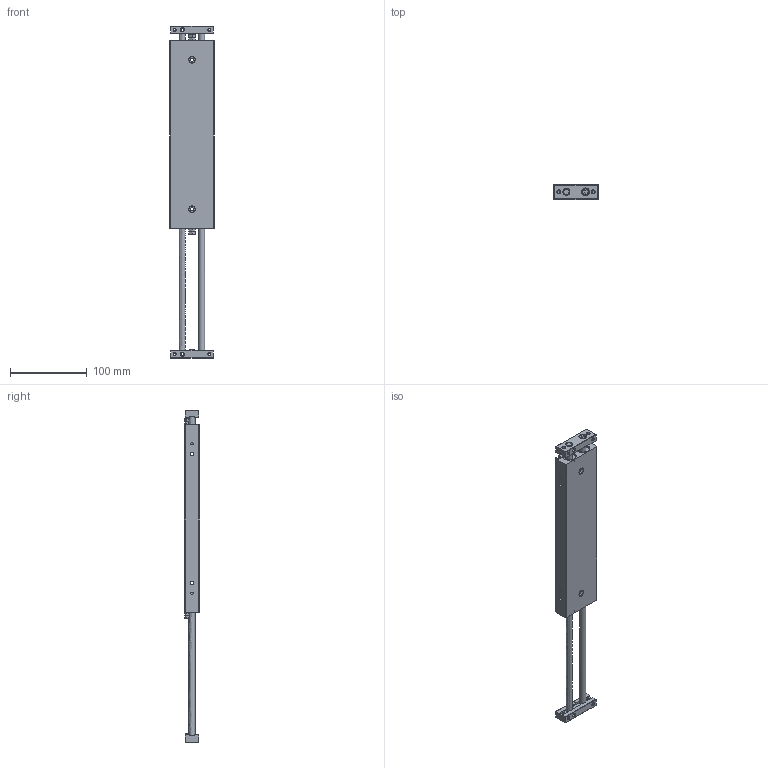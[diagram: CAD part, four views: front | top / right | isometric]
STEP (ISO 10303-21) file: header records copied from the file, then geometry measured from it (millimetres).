
FILE_DESCRIPTION((''),'2;1');
FILE_NAME('I:\3D電子目錄\氣缸\STX\STX\STX16\STX16x150.stp','2007-10-01T17:21:06',('Administrator'),(''),'Autodesk Inventor 11','Autodesk Inventor 11','');
FILE_SCHEMA(('AUTOMOTIVE_DESIGN { 1 0 10303 214 1 1 1 1 }'));
Length unit declared in the file: millimetre
Products named in the file (1): STX16
Bounding box: 58 x 20 x 433 mm (x, y, z)
Volume: 297355.4 mm3; surface area: 67807 mm2
Topology: 1 solids, 1 shells, 267 faces, 674 edges, 423 vertices
Faces by surface type: plane 130, cone 76, bspline 36, cylinder 21, torus 4
Full cylindrical faces by diameter (mm): 3.242 x2, 6 x2, 8 x6, 8.2 x2, 8.5 x2, 9 x2, 17 x2, 18 x2
Entity records: 8177 total; most frequent: CARTESIAN_POINT 2631, ORIENTED_EDGE 1088, DIRECTION 1066, EDGE_CURVE 544, EDGE_LOOP 414, AXIS2_PLACEMENT_3D 403, VERTEX_POINT 380, FACE_OUTER_BOUND 266
